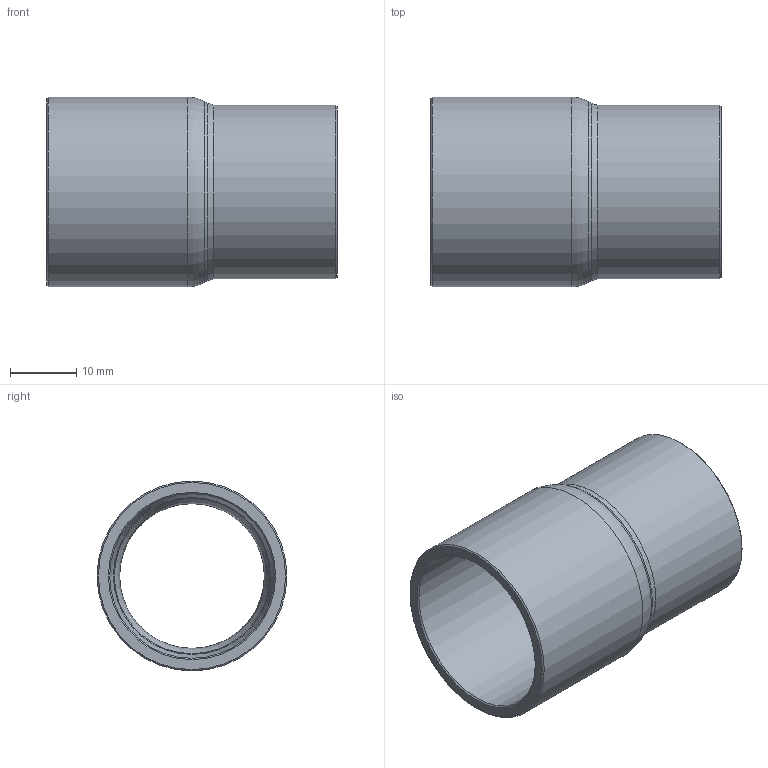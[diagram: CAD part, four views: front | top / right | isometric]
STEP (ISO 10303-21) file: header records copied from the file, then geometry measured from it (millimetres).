
FILE_DESCRIPTION((''),'2;1');
FILE_NAME('G:\SANHA-Ternat\Technik\Management\Bouwmaten + markeringen\z-maattekeningen 3D\29000s\2924311878_3d.stp','2017-08-03T16:18:31',('vdvijverd'),(''),'Autodesk Inventor 2009','Autodesk Inventor 2009','');
FILE_SCHEMA(('AUTOMOTIVE_DESIGN { 1 0 10303 214 1 1 1 1 }'));
Length unit declared in the file: millimetre
Products named in the file (1): 2924311878_3d
Bounding box: 43.7 x 28.57 x 28.57 mm (x, y, z)
Volume: 6750.3 mm3; surface area: 7324.1 mm2
Topology: 1 solids, 1 shells, 17 faces, 32 edges, 17 vertices
Faces by surface type: cone 6, cylinder 4, bspline 3, plane 2, torus 2
Full cylindrical faces by diameter (mm): 22.375 x1, 24.775 x1, 26.175 x1, 28.575 x1
Entity records: 494 total; most frequent: CARTESIAN_POINT 184, DIRECTION 64, ORIENTED_EDGE 34, EDGE_LOOP 34, AXIS2_PLACEMENT_3D 32, VERTEX_POINT 17, CIRCLE 17, EDGE_CURVE 17
